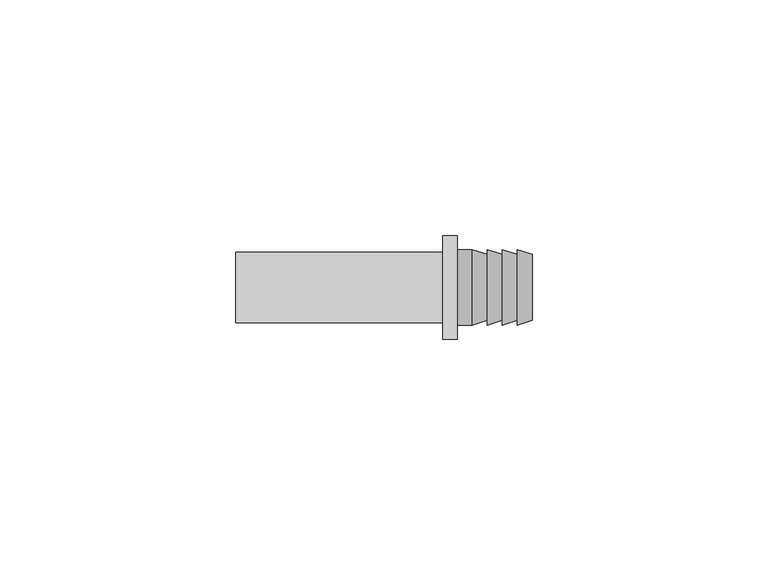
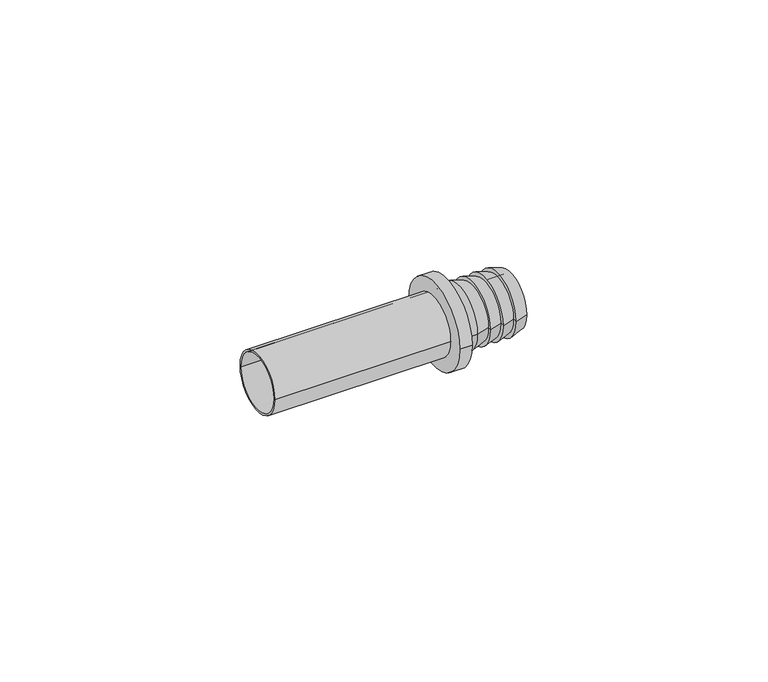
"""IFC4 building model written with IfcOpenShell, lengths in millimetres: pipe fitting geometry, VALTEC_VTi.909.I_Вставка с переходом на аксиальное соединение : VTi.909.I."""

from ifc_helpers import new_model, si_unit, point, frame, origin, origin_2d, place, context, project, spatial, polyline, circle_curve, trimmed, segment, composite_curve, outline, extrude, source, transform, mapped, element, save
from ifc_brep_helpers import plane_surface, cylinder_surface, revolved_surface, advanced_brep


def pipe_fitting_f805103d(model_context):
    return source(origin(), model_context, "Body", "SolidModel", [
        advanced_brep(
        [(50.264, -8.0, 0.0), (50.264, 8.0, 0.0), (53.448, 7.0, 0.0), (53.448, -7.0, 0.0), (47.08, -8.0, 0.0), (47.08, 8.0, 0.0), (47.08, -5.5, 0.0), (47.08, 5.5, 0.0), (63.0, -7.0, 0.0), (63.0, 7.0, 0.0), (63.0, 5.5, 0.0), (63.0, -5.5, 0.0), (59.816, -8.0, 0.0), (59.816, 8.0, 0.0), (59.816, -7.0, 0.0), (59.816, 7.0, 0.0), (56.632, -8.0, 0.0), (56.632, 8.0, 0.0), (56.632, -7.0, 0.0), (56.632, 7.0, 0.0), (53.448, -8.0, 0.0), (53.448, 8.0, 0.0)],
        [
            (0, 1, circle_curve(frame((50.264, 0.0, 0.0), z_axis=(1.0, 0.0, 0.0), x_axis=(0.0, 1.0, 0.0)), 8.0)),
            (1, 2),
            (2, 3, circle_curve(frame((53.448, 0.0, 0.0), z_axis=(-1.0, 0.0, 0.0), x_axis=(0.0, 1.0, 0.0)), 7.0)),
            (3, 0),
            (1, 0, circle_curve(frame((50.264, 0.0, 0.0), z_axis=(1.0, 0.0, 0.0), x_axis=(0.0, 1.0, 0.0)), 8.0)),
            (3, 2, circle_curve(frame((53.448, 0.0, 0.0), z_axis=(-1.0, 0.0, 0.0), x_axis=(0.0, 1.0, 0.0)), 7.0)),
            (4, 5, circle_curve(frame((47.08, 0.0, 0.0), z_axis=(1.0, 0.0, 0.0), x_axis=(0.0, 1.0, 0.0)), 8.0)),
            (5, 1),
            (0, 4),
            (5, 4, circle_curve(frame((47.08, 0.0, 0.0), z_axis=(1.0, 0.0, 0.0), x_axis=(0.0, 1.0, 0.0)), 8.0)),
            (6, 7, circle_curve(frame((47.08, 0.0, 0.0), z_axis=(1.0, 0.0, 0.0), x_axis=(0.0, 1.0, 0.0)), 5.5)),
            (7, 5),
            (4, 6),
            (7, 6, circle_curve(frame((47.08, 0.0, 0.0), z_axis=(1.0, 0.0, 0.0), x_axis=(0.0, 1.0, 0.0)), 5.5)),
            (8, 9, circle_curve(frame((63.0, 0.0, 0.0), z_axis=(1.0, 0.0, 0.0), x_axis=(0.0, 1.0, 0.0)), 7.0)),
            (9, 10),
            (10, 11, circle_curve(frame((63.0, 0.0, 0.0), z_axis=(-1.0, 0.0, 0.0), x_axis=(0.0, 1.0, 0.0)), 5.5)),
            (11, 8),
            (9, 8, circle_curve(frame((63.0, 0.0, 0.0), z_axis=(1.0, 0.0, 0.0), x_axis=(0.0, 1.0, 0.0)), 7.0)),
            (11, 10, circle_curve(frame((63.0, 0.0, 0.0), z_axis=(-1.0, 0.0, 0.0), x_axis=(0.0, 1.0, 0.0)), 5.5)),
            (12, 13, circle_curve(frame((59.816, 0.0, 0.0), z_axis=(1.0, 0.0, 0.0), x_axis=(0.0, 1.0, 0.0)), 8.0)),
            (13, 9),
            (8, 12),
            (13, 12, circle_curve(frame((59.816, 0.0, 0.0), z_axis=(1.0, 0.0, 0.0), x_axis=(0.0, 1.0, 0.0)), 8.0)),
            (14, 15, circle_curve(frame((59.816, 0.0, 0.0), z_axis=(1.0, 0.0, 0.0), x_axis=(0.0, 1.0, 0.0)), 7.0)),
            (15, 13),
            (12, 14),
            (15, 14, circle_curve(frame((59.816, 0.0, 0.0), z_axis=(1.0, 0.0, 0.0), x_axis=(0.0, 1.0, 0.0)), 7.0)),
            (16, 17, circle_curve(frame((56.632, 0.0, 0.0), z_axis=(1.0, 0.0, 0.0), x_axis=(0.0, 1.0, 0.0)), 8.0)),
            (17, 15),
            (14, 16),
            (17, 16, circle_curve(frame((56.632, 0.0, 0.0), z_axis=(1.0, 0.0, 0.0), x_axis=(0.0, 1.0, 0.0)), 8.0)),
            (18, 19, circle_curve(frame((56.632, 0.0, 0.0), z_axis=(1.0, 0.0, 0.0), x_axis=(0.0, 1.0, 0.0)), 7.0)),
            (19, 17),
            (16, 18),
            (19, 18, circle_curve(frame((56.632, 0.0, 0.0), z_axis=(1.0, 0.0, 0.0), x_axis=(0.0, 1.0, 0.0)), 7.0)),
            (20, 21, circle_curve(frame((53.448, 0.0, 0.0), z_axis=(1.0, 0.0, 0.0), x_axis=(0.0, 1.0, 0.0)), 8.0)),
            (21, 19),
            (18, 20),
            (21, 20, circle_curve(frame((53.448, 0.0, 0.0), z_axis=(1.0, 0.0, 0.0), x_axis=(0.0, 1.0, 0.0)), 8.0)),
            (2, 21),
            (20, 3),
            (10, 7),
            (6, 11),
        ],
        [
            revolved_surface(polyline([(53.448, 7.0, 0.0), (50.264, 8.0, 0.0)]), (61.6579616, 0.0, 0.0), (-1.0, 0.0, 0.0)),
            cylinder_surface(frame((61.6579616, 0.0, 0.0), z_axis=(-1.0, 0.0, 0.0), x_axis=(0.0, 1.0, 0.0)), 8.0),
            plane_surface(frame((47.08, 0.0, 0.0), z_axis=(-1.0, 0.0, 0.0), x_axis=(0.0, 1.0, 0.0))),
            plane_surface(frame((63.0, 0.0, 0.0), z_axis=(1.0, 0.0, 0.0), x_axis=(0.0, 1.0, 0.0))),
            revolved_surface(polyline([(63.0, 7.0, 0.0), (59.816, 8.0, 0.0)]), (61.6579616, 0.0, 0.0), (-1.0, 0.0, 0.0)),
            plane_surface(frame((59.816, 0.0, 0.0), z_axis=(-1.0, 0.0, 0.0), x_axis=(0.0, 1.0, 0.0))),
            revolved_surface(polyline([(59.816, 7.0, 0.0), (56.632, 8.0, 0.0)]), (61.6579616, 0.0, 0.0), (-1.0, 0.0, 0.0)),
            plane_surface(frame((56.632, 0.0, 0.0), z_axis=(-1.0, 0.0, 0.0), x_axis=(0.0, 1.0, 0.0))),
            revolved_surface(polyline([(56.632, 7.0, 0.0), (53.448, 8.0, 0.0)]), (61.6579616, 0.0, 0.0), (-1.0, 0.0, 0.0)),
            plane_surface(frame((53.448, 0.0, 0.0), z_axis=(-1.0, 0.0, 0.0), x_axis=(0.0, 1.0, 0.0))),
            revolved_surface(polyline([(47.08, 5.5, 0.0), (63.0, 5.5, 0.0)]), (61.6579616, 0.0, 0.0), (-1.0, 0.0, 0.0)),
        ],
        [
            (0, [[1, 2, 3, 4]]),
            (0, [[5, -4, 6, -2]]),
            (1, [[7, 8, -1, 9]]),
            (1, [[10, -9, -5, -8]]),
            (2, [[11, 12, -7, 13]]),
            (2, [[14, -13, -10, -12]]),
            (3, [[15, 16, 17, 18]]),
            (3, [[19, -18, 20, -16]]),
            (4, [[21, 22, -15, 23]]),
            (4, [[24, -23, -19, -22]]),
            (5, [[25, 26, -21, 27]]),
            (5, [[28, -27, -24, -26]]),
            (6, [[29, 30, -25, 31]]),
            (6, [[32, -31, -28, -30]]),
            (7, [[33, 34, -29, 35]]),
            (7, [[36, -35, -32, -34]]),
            (8, [[37, 38, -33, 39]]),
            (8, [[40, -39, -36, -38]]),
            (9, [[-3, 41, -37, 42]]),
            (9, [[-6, -42, -40, -41]]),
            (10, [[-17, 43, -11, 44]]),
            (10, [[-20, -44, -14, -43]]),
        ],
    ),
        extrude(outline(composite_curve([segment(trimmed(circle_curve(origin_2d(), 11.0), [point((-11.0, 0.0))], [point((11.0, 0.0))], False, "CARTESIAN"), True, "CONTINUOUS"), segment(trimmed(circle_curve(origin_2d(), 11.0), [point((11.0, 0.0))], [point((-11.0, 0.0))], False, "CARTESIAN"), True, "CONTINUOUS")], self_intersect=False), holes=[composite_curve([segment(trimmed(circle_curve(origin_2d(), 7.0), [point((-7.0, 0.0))], [point((7.0, 0.0))], True, "CARTESIAN"), True, "CONTINUOUS"), segment(trimmed(circle_curve(origin_2d(), 7.0), [point((7.0, 0.0))], [point((-7.0, 0.0))], True, "CARTESIAN"), True, "CONTINUOUS")], self_intersect=False)]), frame((44.0, 0.0, 0.0), z_axis=(1.0, 0.0, 0.0), x_axis=(0.0, 1.0, 0.0)), (0.0, 0.0, 1.0), 3.08),
        extrude(outline(composite_curve([segment(trimmed(circle_curve(origin_2d(), 7.5), [point((-7.5, 0.0))], [point((7.5, 0.0))], False, "CARTESIAN"), True, "CONTINUOUS"), segment(trimmed(circle_curve(origin_2d(), 7.5), [point((7.5, 0.0))], [point((-7.5, 0.0))], False, "CARTESIAN"), True, "CONTINUOUS")], self_intersect=False), holes=[composite_curve([segment(trimmed(circle_curve(origin_2d(), 7.0), [point((-7.0, 0.0))], [point((7.0, 0.0))], True, "CARTESIAN"), True, "CONTINUOUS"), segment(trimmed(circle_curve(origin_2d(), 7.0), [point((7.0, 0.0))], [point((-7.0, 0.0))], True, "CARTESIAN"), True, "CONTINUOUS")], self_intersect=False)]), frame((0.0, 0.0, 0.0), z_axis=(1.0, 0.0, 0.0), x_axis=(0.0, 1.0, 0.0)), (0.0, 0.0, 1.0), 44.0),
    ])


if __name__ == "__main__":
    model = new_model("IFC4")
    model_context = context("Model", 3, world=origin())
    ifc_project = project(units=[si_unit("LENGTHUNIT", "METRE", prefix="MILLI")], contexts=[model_context])
    site = spatial("IfcSite", under=ifc_project)
    building = spatial("IfcBuilding", under=site)
    placement = place(None, origin())
    pipe_fitting_shape = pipe_fitting_f805103d(model_context)
    element("IfcPipeFitting", 1, ObjectType="VALTEC_VTi.909.I_Вставка с переходом на аксиальное соединение : VTi.909.I", at=placement, inside=building, context=model_context, shape_type="MappedRepresentation", body=[
        mapped(pipe_fitting_shape, transform((0.0, 0.0, 0.0), x_axis=(1.0, 0.0, 0.0), y_axis=(0.0, 1.0, 0.0), z_axis=(0.0, 0.0, 1.0))),
    ])
    save(model, "model.ifc")
